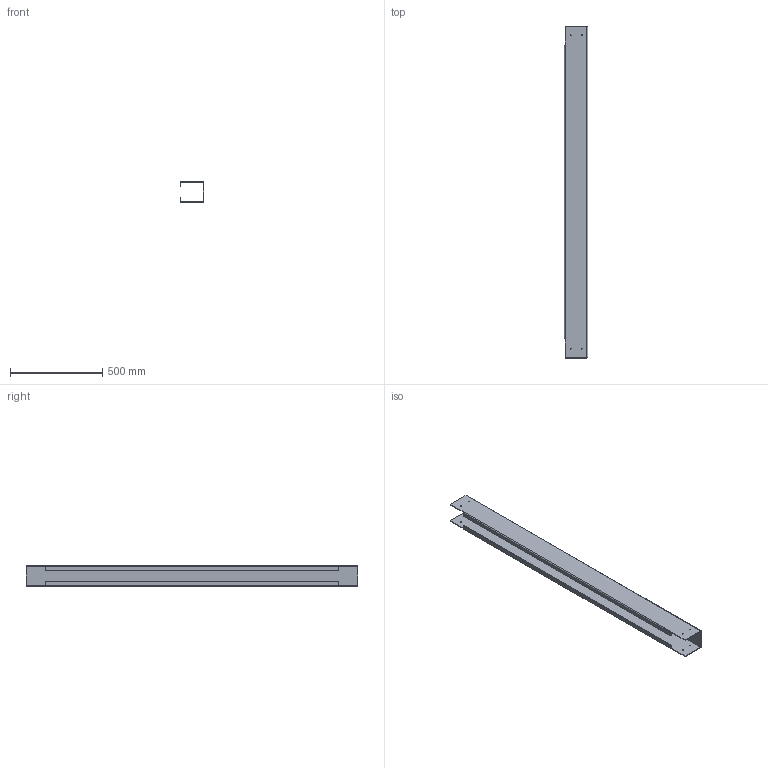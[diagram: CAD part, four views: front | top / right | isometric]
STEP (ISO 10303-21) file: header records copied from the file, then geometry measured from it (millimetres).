
FILE_DESCRIPTION(('HOOPS Exchange Step'),'2;1');
FILE_NAME('/private/var/mobile/Containers/Data/Application/E4481369-A8C6-45C6-A958-B1853E49479D/tmp/export/temp_export','2021-04-12T21:14:01+00:00',('mobile'),('Shapr3D Limited'),'HOOPS Exchange 2020.2','Shapr3D','Authorized');
FILE_SCHEMA( ('AP203_CONFIGURATION_CONTROLLED_3D_DESIGN_OF_MECHANICAL_PARTS_AND_ASSEMBLIES_MIM_LF') );
Length unit declared in the file: millimetre
Products named in the file (2): 0; /private/var/mobile/Containers/Data/Application/E4481369-A8C6-45C6-A958-B1853E49479D/tmp/295A80B7-025A-4E62-9444-5B49D4499BF0.tmp
Assembly tree (1 placements, depth 2):
  /private/var/mobile/Containers/Data/Application/E4481369-A8C6-45C6-A958-B1853E49479D/tmp/295A80B7-025A-4E62-9444-5B49D4499BF0.tmp
    0
Bounding box: 129 x 1800 x 112 mm (x, y, z)
Volume: 2817172.9 mm3; surface area: 1426670.3 mm2
Topology: 1 solids, 1 shells, 46 faces, 132 edges, 88 vertices
Faces by surface type: cylinder 24, plane 22
Full cylindrical faces by diameter (mm): 5.2 x8
Entity records: 1611 total; most frequent: DIRECTION 286, CARTESIAN_POINT 269, ORIENTED_EDGE 264, EDGE_CURVE 132, AXIS2_PLACEMENT_3D 105, VERTEX_POINT 88, VECTOR 76, LINE 76
